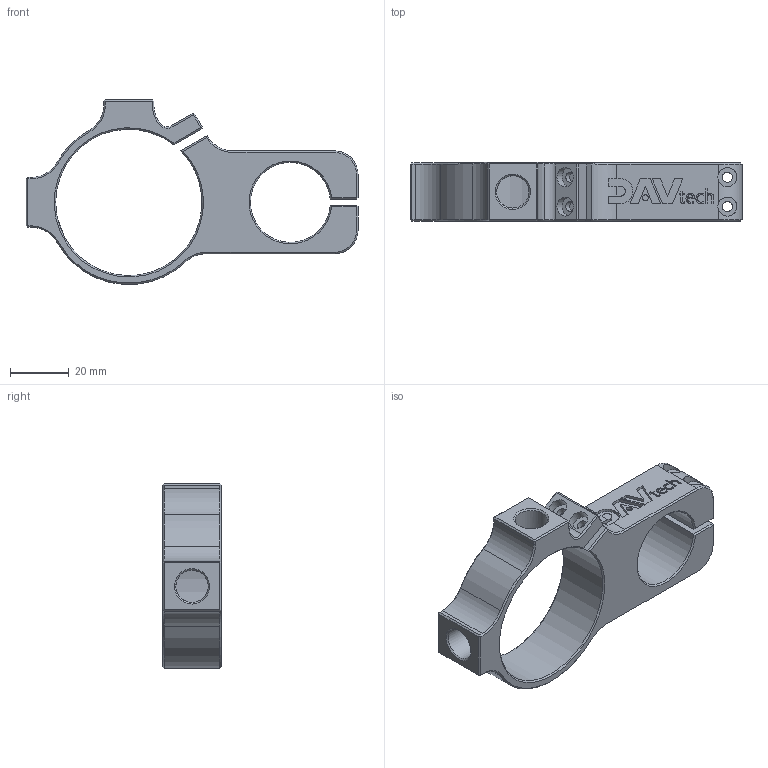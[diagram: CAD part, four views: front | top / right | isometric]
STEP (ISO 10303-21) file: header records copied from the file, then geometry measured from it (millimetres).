
FILE_DESCRIPTION (( 'STEP AP214' ), '1' );
FILE_NAME ('SEMCO12-HOLDER-S.STEP', '2024-10-14T14:00:07', ( '' ), ( '' ), 'SwSTEP 2.0', 'SolidWorks 2024', '' );
FILE_SCHEMA (( 'AUTOMOTIVE_DESIGN' ));
Length unit declared in the file: millimetre
Products named in the file (1): SEMCO12-HOLDER-S
Bounding box: 113 x 20 x 62.94 mm (x, y, z)
Volume: 36148.1 mm3; surface area: 18135.9 mm2
Topology: 1 solids, 1 shells, 254 faces, 626 edges, 388 vertices
Faces by surface type: plane 164, bspline 35, cone 28, cylinder 27
Full cylindrical faces by diameter (mm): 3.4 x8, 6.5 x4, 11 x2
Entity records: 7755 total; most frequent: CARTESIAN_POINT 2040, ORIENTED_EDGE 1212, DIRECTION 1038, EDGE_CURVE 606, LINE 430, VECTOR 430, VERTEX_POINT 384, AXIS2_PLACEMENT_3D 304
